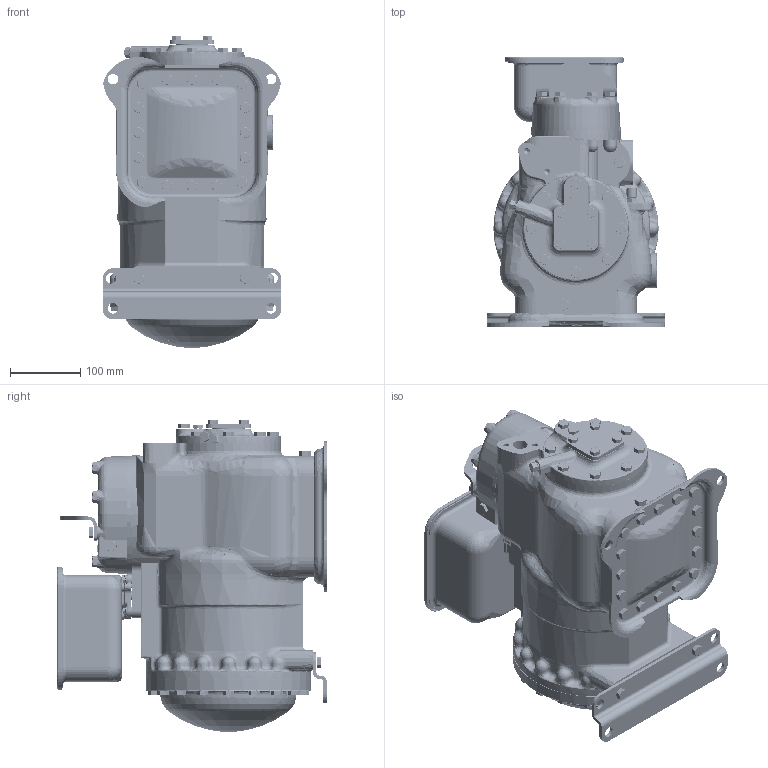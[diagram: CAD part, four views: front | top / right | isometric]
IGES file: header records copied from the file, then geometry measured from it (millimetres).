
Start section:  PTC IGES file: 06d2_3ph.igs
Global section: file name: 06d2_3ph.igs; native system: Pro/ENGINEER by Parametric Technology Corporation; preprocessor: 2010180; author: cactfrq; organization: Unknown; date: 20110516.155548; units: inch
Bounding box: 254 x 384.94 x 444.76 mm (x, y, z)
Surface area: 1458502.7 mm2 (no closed solid volume)
Topology: 0 solids, 0 shells, 5047 faces, 28252 edges, 28110 vertices
Faces by surface type: revolution 2857, bspline 2190
